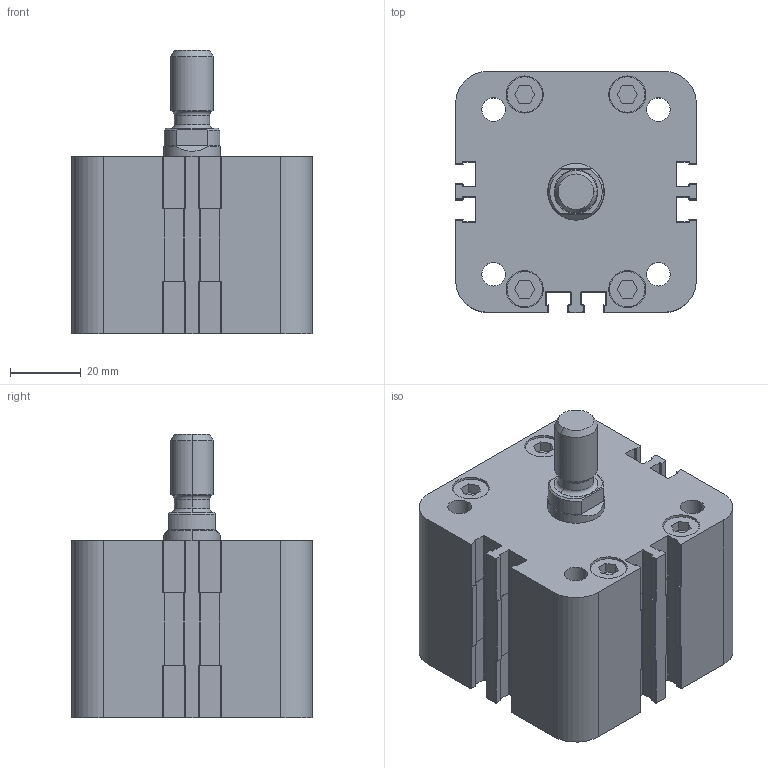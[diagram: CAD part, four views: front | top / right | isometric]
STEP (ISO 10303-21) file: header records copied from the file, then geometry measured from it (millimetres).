
FILE_DESCRIPTION (( 'STEP AP203' ), '1' );
FILE_NAME ('WBM0500005A.step', '2013-04-22T07:06:28', ( '' ), ( '' ), 'SwSTEP 2.0', 'SolidWorks 2012', '' );
FILE_SCHEMA (( 'CONFIG_CONTROL_DESIGN' ));
Length unit declared in the file: millimetre
Products named in the file (1): WBM0500005A
Bounding box: 68 x 68 x 80 mm (x, y, z)
Volume: 210477.1 mm3; surface area: 34949.3 mm2
Topology: 1 solids, 1 shells, 462 faces, 1266 edges, 835 vertices
Faces by surface type: plane 231, cylinder 209, cone 18, torus 4
Entity records: 14922 total; most frequent: CARTESIAN_POINT 2710, DIRECTION 2605, ORIENTED_EDGE 2532, EDGE_CURVE 1266, AXIS2_PLACEMENT_3D 894, VERTEX_POINT 835, VECTOR 817, LINE 817
